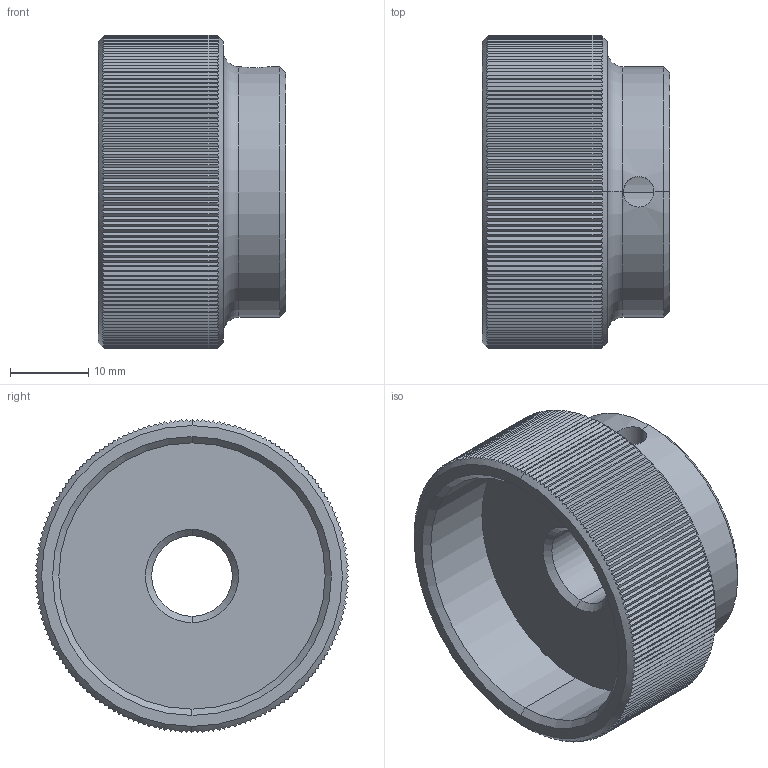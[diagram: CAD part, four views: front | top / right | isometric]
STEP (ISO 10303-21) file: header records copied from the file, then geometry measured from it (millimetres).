
FILE_DESCRIPTION (( 'STEP AP203' ), '1' );
FILE_NAME ('37160.W0112.step', '2011-09-15T08:14:40', ( 'Wixroyd' ), ( 'Wixroyd' ), 'SwSTEP 2.0', 'SolidWorks 2009', '' );
FILE_SCHEMA (( 'CONFIG_CONTROL_DESIGN' ));
Length unit declared in the file: millimetre
Products named in the file (1): 37160.W0112
Bounding box: 24 x 40 x 40 mm (x, y, z)
Volume: 15869.2 mm3; surface area: 6869.5 mm2
Topology: 1 solids, 1 shells, 384 faces, 1130 edges, 748 vertices
Faces by surface type: plane 364, cone 10, cylinder 8, torus 2
Entity records: 13421 total; most frequent: CARTESIAN_POINT 4535, ORIENTED_EDGE 2260, DIRECTION 1202, EDGE_CURVE 1130, VERTEX_POINT 748, B_SPLINE_CURVE_WITH_KNOTS 724, AXIS2_PLACEMENT_3D 411, EDGE_LOOP 388
